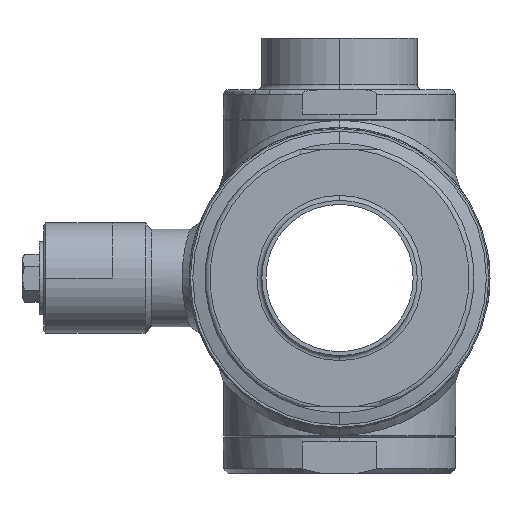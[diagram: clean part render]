
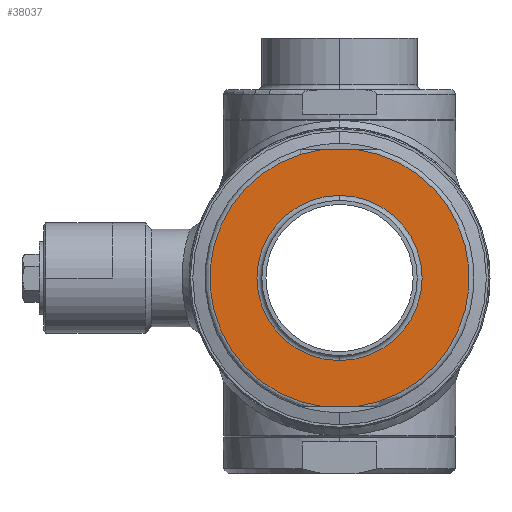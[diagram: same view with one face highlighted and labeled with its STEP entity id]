
A CAD part, left-side view. The second image highlights one B-rep face of the part: STEP entity #38037.
In plain terms, the highlighted planar face has unit normal (-1, 0, 0).
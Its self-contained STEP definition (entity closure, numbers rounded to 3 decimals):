
#3412=CARTESIAN_POINT('',(-77.,0.,0.));
#3413=DIRECTION('',(-1.,0.,0.));
#3414=DIRECTION('',(0.,0.,-1.));
#3415=AXIS2_PLACEMENT_3D('',#3412,#3413,#3414);
#3428=DIRECTION('',(0.,-1.,0.));
#3429=VECTOR('',#3428,14.526);
#3430=CARTESIAN_POINT('',(-77.,7.263,-52.5));
#3431=LINE('',#3430,#3429);
#3435=DIRECTION('',(0.,-1.,0.));
#3436=VECTOR('',#3435,14.526);
#3437=CARTESIAN_POINT('',(-77.,7.263,52.5));
#3438=LINE('',#3437,#3436);
#3450=CARTESIAN_POINT('',(-77.,0.,0.));
#3451=DIRECTION('',(-1.,0.,0.));
#3452=DIRECTION('',(0.,-0.137,-0.991));
#3453=AXIS2_PLACEMENT_3D('',#3450,#3451,#3452);
#3493=CARTESIAN_POINT('',(-77.,-7.263,52.5));
#3525=CARTESIAN_POINT('',(-77.,7.263,52.5));
#3551=CARTESIAN_POINT('',(-77.,0.,0.));
#3552=DIRECTION('',(-1.,0.,0.));
#3553=DIRECTION('',(0.,0.137,0.991));
#3554=AXIS2_PLACEMENT_3D('',#3551,#3552,#3553);
#3594=CARTESIAN_POINT('',(-77.,7.263,-52.5));
#3626=CARTESIAN_POINT('',(-77.,-7.263,-52.5));
#3736=CARTESIAN_POINT('',(-77.,0.,0.));
#3737=DIRECTION('',(-1.,0.,0.));
#3738=DIRECTION('',(0.,0.,1.));
#3739=AXIS2_PLACEMENT_3D('',#3736,#3737,#3738);
#34888=CARTESIAN_POINT('',(-77.,0.,-33.75));
#34889=CARTESIAN_POINT('',(-77.,0.,33.75));
#34890=VERTEX_POINT('',#34888);
#34891=VERTEX_POINT('',#34889);
#34897=VERTEX_POINT('',#3493);
#34899=VERTEX_POINT('',#3525);
#34901=VERTEX_POINT('',#3594);
#34903=VERTEX_POINT('',#3626);
#38017=CARTESIAN_POINT('',(-77.,0.,0.));
#38018=DIRECTION('',(-1.,0.,0.));
#38019=DIRECTION('',(0.,-1.,0.));
#38020=AXIS2_PLACEMENT_3D('',#38017,#38018,#38019);
#38021=PLANE('',#38020);
#38023=ORIENTED_EDGE('',*,*,#38022,.F.);
#38025=ORIENTED_EDGE('',*,*,#38024,.F.);
#38027=ORIENTED_EDGE('',*,*,#38026,.F.);
#38029=ORIENTED_EDGE('',*,*,#38028,.T.);
#38030=EDGE_LOOP('',(#38023,#38025,#38027,#38029));
#38031=FACE_OUTER_BOUND('',#38030,.F.);
#38032=ORIENTED_EDGE('',*,*,#38007,.T.);
#38034=ORIENTED_EDGE('',*,*,#38033,.T.);
#38035=EDGE_LOOP('',(#38032,#38034));
#38036=FACE_BOUND('',#38035,.F.);
#38037=ADVANCED_FACE('',(#38031,#38036),#38021,.T.);
#3416=CIRCLE('',#3415,33.75);
#3454=CIRCLE('',#3453,53.);
#3555=CIRCLE('',#3554,53.);
#3740=CIRCLE('',#3739,33.75);
#38007=EDGE_CURVE('',#34890,#34891,#3416,.T.);
#38022=EDGE_CURVE('',#34903,#34897,#3454,.T.);
#38024=EDGE_CURVE('',#34901,#34903,#3431,.T.);
#38026=EDGE_CURVE('',#34899,#34901,#3555,.T.);
#38028=EDGE_CURVE('',#34899,#34897,#3438,.T.);
#38033=EDGE_CURVE('',#34891,#34890,#3740,.T.);
